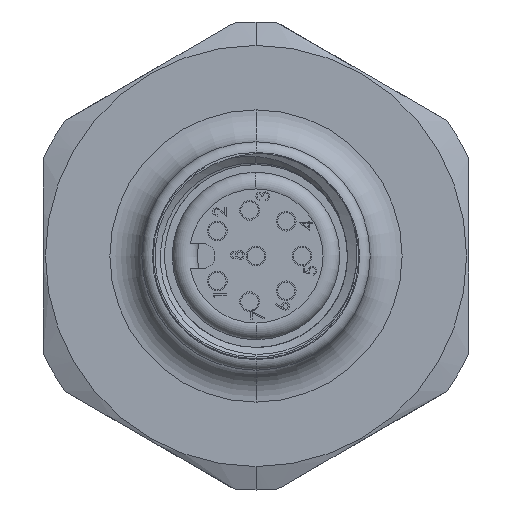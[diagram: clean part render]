
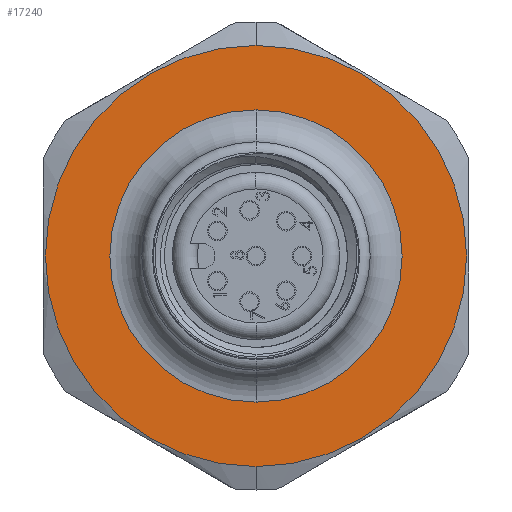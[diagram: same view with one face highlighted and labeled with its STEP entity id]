
A CAD part, left-side view. The second image highlights one B-rep face of the part: STEP entity #17240.
In plain terms, the highlighted planar face has unit normal (-1, 0, 0).
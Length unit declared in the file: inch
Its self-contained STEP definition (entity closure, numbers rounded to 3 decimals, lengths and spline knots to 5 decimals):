
#2064 = CARTESIAN_POINT ( 'NONE',  ( 0.488, 0., 0. ) ) ;
#2065 = DIRECTION ( 'NONE',  ( -1., 0., 0. ) ) ;
#2066 = DIRECTION ( 'NONE',  ( 0., 0., 1. ) ) ;
#2229 = EDGE_CURVE ( 'NONE', #5406, #5516, #19076, .T. ) ;
#2347 = AXIS2_PLACEMENT_3D ( 'NONE', #2064, #2065, #2066 ) ;
#2392 = AXIS2_PLACEMENT_3D ( 'NONE', #18284, #18285, #18286 ) ;
#2698 = EDGE_LOOP ( 'NONE', ( #16675, #16652 ) ) ;
#3577 = EDGE_LOOP ( 'NONE', ( #11130, #11049 ) ) ;
#5406 = VERTEX_POINT ( 'NONE', #18104 ) ;
#5478 = VERTEX_POINT ( 'NONE', #18141 ) ;
#5516 = VERTEX_POINT ( 'NONE', #18172 ) ;
#5524 = VERTEX_POINT ( 'NONE', #18180 ) ;
#6604 = PLANE ( 'NONE',  #7497 ) ;
#6612 = CARTESIAN_POINT ( 'NONE',  ( 0.488, 0.3435, 0. ) ) ;
#6613 = DIRECTION ( 'NONE',  ( 1., 0., 0. ) ) ;
#6614 = DIRECTION ( 'NONE',  ( 0., 0., -1. ) ) ;
#7093 = FACE_OUTER_BOUND ( 'NONE', #2698, .T. ) ;
#7096 = FACE_BOUND ( 'NONE', #3577, .T. ) ;
#7497 = AXIS2_PLACEMENT_3D ( 'NONE', #6612, #6613, #6614 ) ;
#11049 = ORIENTED_EDGE ( 'NONE', *, *, #19783, .F. ) ;
#11130 = ORIENTED_EDGE ( 'NONE', *, *, #13205, .F. ) ;
#12254 = CARTESIAN_POINT ( 'NONE',  ( 0.488, 0., 0. ) ) ;
#12255 = DIRECTION ( 'NONE',  ( -1., 0., 0. ) ) ;
#12256 = DIRECTION ( 'NONE',  ( 0., 0., 1. ) ) ;
#12636 = CIRCLE ( 'NONE', #13333, 0.495 ) ;
#12835 = CIRCLE ( 'NONE', #13394, 0.3435 ) ;
#13205 = EDGE_CURVE ( 'NONE', #5478, #5524, #19172, .T. ) ;
#13333 = AXIS2_PLACEMENT_3D ( 'NONE', #12254, #12255, #12256 ) ;
#13394 = AXIS2_PLACEMENT_3D ( 'NONE', #21417, #21418, #21419 ) ;
#16652 = ORIENTED_EDGE ( 'NONE', *, *, #17641, .T. ) ;
#16675 = ORIENTED_EDGE ( 'NONE', *, *, #2229, .T. ) ;
#17240 = ADVANCED_FACE ( 'NONE', ( #7096, #7093 ), #6604, .F. ) ;
#17641 = EDGE_CURVE ( 'NONE', #5516, #5406, #12636, .T. ) ;
#18104 = CARTESIAN_POINT ( 'NONE',  ( 0.488, 0., -0.495 ) ) ;
#18141 = CARTESIAN_POINT ( 'NONE',  ( 0.488, 0., 0.3435 ) ) ;
#18172 = CARTESIAN_POINT ( 'NONE',  ( 0.488, 0., 0.495 ) ) ;
#18180 = CARTESIAN_POINT ( 'NONE',  ( 0.488, 0., -0.3435 ) ) ;
#18284 = CARTESIAN_POINT ( 'NONE',  ( 0.488, 0., 0. ) ) ;
#18285 = DIRECTION ( 'NONE',  ( -1., 0., 0. ) ) ;
#18286 = DIRECTION ( 'NONE',  ( 0., 0., 1. ) ) ;
#19076 = CIRCLE ( 'NONE', #2347, 0.495 ) ;
#19172 = CIRCLE ( 'NONE', #2392, 0.3435 ) ;
#19783 = EDGE_CURVE ( 'NONE', #5524, #5478, #12835, .T. ) ;
#21417 = CARTESIAN_POINT ( 'NONE',  ( 0.488, 0., 0. ) ) ;
#21418 = DIRECTION ( 'NONE',  ( -1., 0., 0. ) ) ;
#21419 = DIRECTION ( 'NONE',  ( 0., 0., 1. ) ) ;
